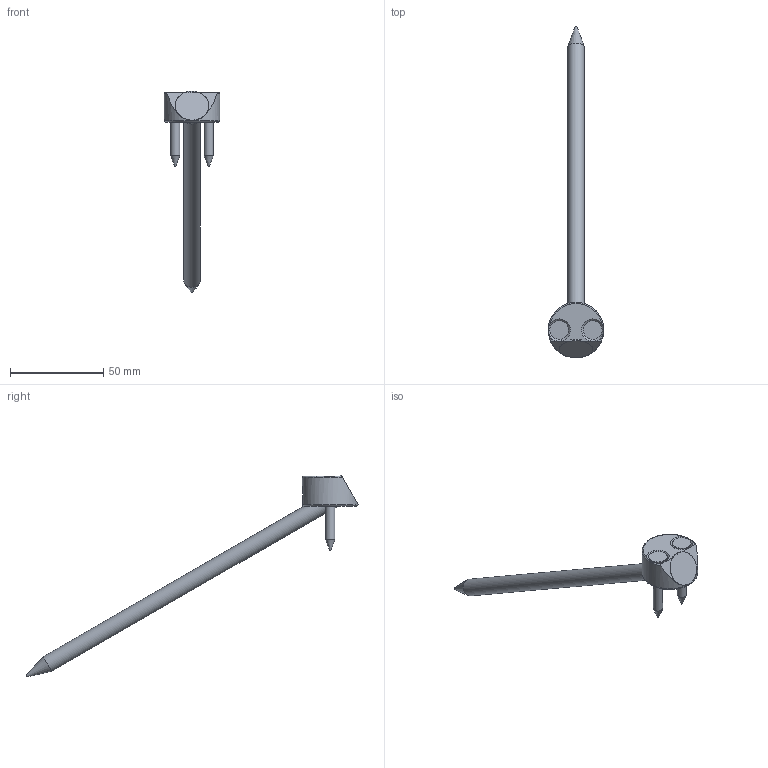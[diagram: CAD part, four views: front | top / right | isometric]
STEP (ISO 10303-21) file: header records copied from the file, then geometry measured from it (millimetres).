
FILE_DESCRIPTION(/* description */ ('Unknown'),/* implementation_level */ '2;1');
FILE_NAME(/* name */ 'T-Joint_D30_W30_2xSK5x40_1xSK10x200',/* time_stamp */ '2020-07-13T09:58:13+02:00',/* author */ ('Unknown'),/* organization */ ('Unknown'),/* preprocessor_version */ 'ST-DEVELOPER v16.7',/* originating_system */ 'DEX',/* authorisation */ $);
FILE_SCHEMA (('AUTOMOTIVE_DESIGN {1 0 10303 214 3 1 1}'));
Length unit declared in the file: millimetre
Products named in the file (4): T-Joint_D30_W30_2xSK5x40_1xSK10x200; T-Joint_D30_W30; SK Schraube 5x40_ohne_Gewinde; SK Schraube 10x200_ohne_Gewinde_22042020
Assembly tree (4 placements, depth 2):
  T-Joint_D30_W30_2xSK5x40_1xSK10x200
    T-Joint_D30_W30
    SK Schraube 5x40_ohne_Gewinde  x2
    SK Schraube 10x200_ohne_Gewinde_22042020
Bounding box: 29.78 x 178.09 x 108.23 mm (x, y, z)
Volume: 21493.5 mm3; surface area: 10762.1 mm2
Topology: 4 solids, 4 shells, 32 faces, 71 edges, 43 vertices
Faces by surface type: cylinder 11, cone 10, plane 9, torus 2
Full cylindrical faces by diameter (mm): 5 x2, 6.2 x2, 9 x1, 10 x3, 10.5 x1, 18 x1
Entity records: 752 total; most frequent: CARTESIAN_POINT 136, DIRECTION 122, ORIENTED_EDGE 76, AXIS2_PLACEMENT_3D 60, EDGE_LOOP 45, FACE_BOUND 45, EDGE_CURVE 38, VERTEX_POINT 31
